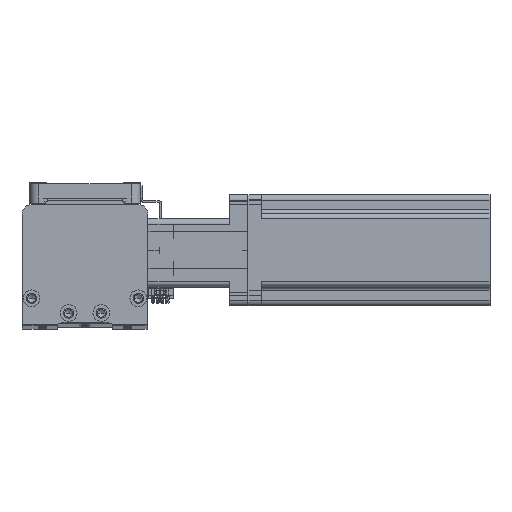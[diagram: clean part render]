
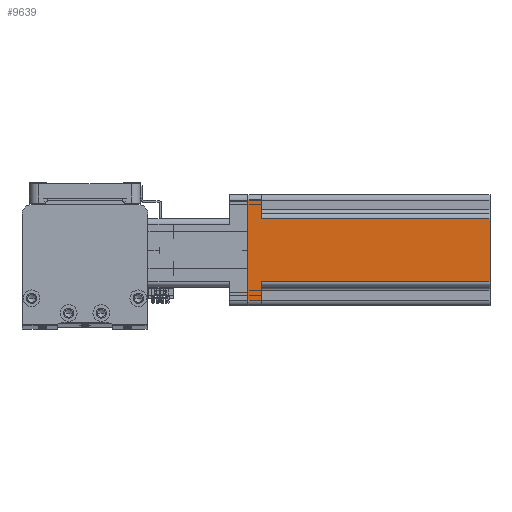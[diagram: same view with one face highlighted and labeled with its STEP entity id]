
A CAD part, top view. The second image highlights one B-rep face of the part: STEP entity #9639.
In plain terms, the highlighted planar face has unit normal (0, 0, 1) as drawn and (1, 0, 0) by its records, which use the part's own axes.
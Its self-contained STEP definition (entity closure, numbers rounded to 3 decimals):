
#1962 = EDGE_CURVE ( 'NONE', #25760, #38187, #19477, .T. ) ;
#2953 = EDGE_LOOP ( 'NONE', ( #4997, #17261, #18637, #21595, #14603, #41911, #16648, #32950 ) ) ;
#3145 = CARTESIAN_POINT ( 'NONE',  ( 30., 17., 130.7 ) ) ;
#3381 = CARTESIAN_POINT ( 'NONE',  ( 30., -30., 0. ) ) ;
#3914 = CARTESIAN_POINT ( 'NONE',  ( 30., -17., 130.7 ) ) ;
#3921 = VERTEX_POINT ( 'NONE', #32972 ) ;
#4610 = VECTOR ( 'NONE', #22210, 1000. ) ;
#4641 = DIRECTION ( 'NONE',  ( 0., 0., 1. ) ) ;
#4997 = ORIENTED_EDGE ( 'NONE', *, *, #42798, .F. ) ;
#5193 = LINE ( 'NONE', #48787, #38824 ) ;
#5521 = CARTESIAN_POINT ( 'NONE',  ( 30., 27., 130.7 ) ) ;
#6058 = AXIS2_PLACEMENT_3D ( 'NONE', #6245, #32645, #10096 ) ;
#6245 = CARTESIAN_POINT ( 'NONE',  ( 30., -30., 130.7 ) ) ;
#8305 = EDGE_CURVE ( 'NONE', #26854, #25760, #22837, .T. ) ;
#8754 = CARTESIAN_POINT ( 'NONE',  ( 30., -17., 7.5 ) ) ;
#9136 = VERTEX_POINT ( 'NONE', #3145 ) ;
#9444 = VECTOR ( 'NONE', #12781, 1000. ) ;
#9639 = ADVANCED_FACE ( 'NONE', ( #34725 ), #40104, .F. ) ;
#10035 = VECTOR ( 'NONE', #39172, 1000. ) ;
#10096 = DIRECTION ( 'NONE',  ( 0., 0., 1. ) ) ;
#10408 = VERTEX_POINT ( 'NONE', #29508 ) ;
#10993 = LINE ( 'NONE', #14745, #16252 ) ;
#11064 = CARTESIAN_POINT ( 'NONE',  ( 30., -27., 7.5 ) ) ;
#11691 = CARTESIAN_POINT ( 'NONE',  ( 30., -27., 0. ) ) ;
#12569 = DIRECTION ( 'NONE',  ( 0., 0., -1. ) ) ;
#12781 = DIRECTION ( 'NONE',  ( 0., -1., 0. ) ) ;
#12818 = VECTOR ( 'NONE', #12569, 1000. ) ;
#12820 = CARTESIAN_POINT ( 'NONE',  ( 30., 30., 7.5 ) ) ;
#14511 = CARTESIAN_POINT ( 'NONE',  ( 30., 17., 7.5 ) ) ;
#14603 = ORIENTED_EDGE ( 'NONE', *, *, #46322, .T. ) ;
#14745 = CARTESIAN_POINT ( 'NONE',  ( 30., -30., 130.7 ) ) ;
#16252 = VECTOR ( 'NONE', #22164, 1000. ) ;
#16648 = ORIENTED_EDGE ( 'NONE', *, *, #22343, .F. ) ;
#17261 = ORIENTED_EDGE ( 'NONE', *, *, #8305, .T. ) ;
#17685 = VECTOR ( 'NONE', #43279, 1000. ) ;
#18637 = ORIENTED_EDGE ( 'NONE', *, *, #1962, .T. ) ;
#18963 = VECTOR ( 'NONE', #4641, 1000. ) ;
#19477 = LINE ( 'NONE', #47951, #9444 ) ;
#19744 = EDGE_CURVE ( 'NONE', #47190, #9136, #39533, .T. ) ;
#20065 = LINE ( 'NONE', #12820, #10035 ) ;
#21595 = ORIENTED_EDGE ( 'NONE', *, *, #22806, .T. ) ;
#22164 = DIRECTION ( 'NONE',  ( 0., 1., 0. ) ) ;
#22210 = DIRECTION ( 'NONE',  ( 0., 1., 0. ) ) ;
#22343 = EDGE_CURVE ( 'NONE', #47190, #10408, #20065, .T. ) ;
#22365 = DIRECTION ( 'NONE',  ( 0., 0., -1. ) ) ;
#22467 = EDGE_CURVE ( 'NONE', #3921, #10408, #36551, .T. ) ;
#22806 = EDGE_CURVE ( 'NONE', #38187, #43900, #5193, .T. ) ;
#22837 = LINE ( 'NONE', #8754, #12818 ) ;
#25760 = VERTEX_POINT ( 'NONE', #44723 ) ;
#26854 = VERTEX_POINT ( 'NONE', #3914 ) ;
#27117 = CARTESIAN_POINT ( 'NONE',  ( 30., 17., 130.7 ) ) ;
#29508 = CARTESIAN_POINT ( 'NONE',  ( 30., 27., 7.5 ) ) ;
#32645 = DIRECTION ( 'NONE',  ( -1., 0., 0. ) ) ;
#32950 = ORIENTED_EDGE ( 'NONE', *, *, #19744, .T. ) ;
#32972 = CARTESIAN_POINT ( 'NONE',  ( 30., 27., 0. ) ) ;
#33520 = LINE ( 'NONE', #3381, #4610 ) ;
#34725 = FACE_OUTER_BOUND ( 'NONE', #2953, .T. ) ;
#36551 = LINE ( 'NONE', #5521, #17685 ) ;
#38187 = VERTEX_POINT ( 'NONE', #11064 ) ;
#38824 = VECTOR ( 'NONE', #22365, 1000. ) ;
#39172 = DIRECTION ( 'NONE',  ( 0., 1., 0. ) ) ;
#39533 = LINE ( 'NONE', #27117, #18963 ) ;
#40104 = PLANE ( 'NONE',  #6058 ) ;
#41911 = ORIENTED_EDGE ( 'NONE', *, *, #22467, .T. ) ;
#42798 = EDGE_CURVE ( 'NONE', #26854, #9136, #10993, .T. ) ;
#43279 = DIRECTION ( 'NONE',  ( 0., 0., 1. ) ) ;
#43900 = VERTEX_POINT ( 'NONE', #11691 ) ;
#44723 = CARTESIAN_POINT ( 'NONE',  ( 30., -17., 7.5 ) ) ;
#46322 = EDGE_CURVE ( 'NONE', #43900, #3921, #33520, .T. ) ;
#47190 = VERTEX_POINT ( 'NONE', #14511 ) ;
#47951 = CARTESIAN_POINT ( 'NONE',  ( 30., -30., 7.5 ) ) ;
#48787 = CARTESIAN_POINT ( 'NONE',  ( 30., -27., 130.7 ) ) ;
